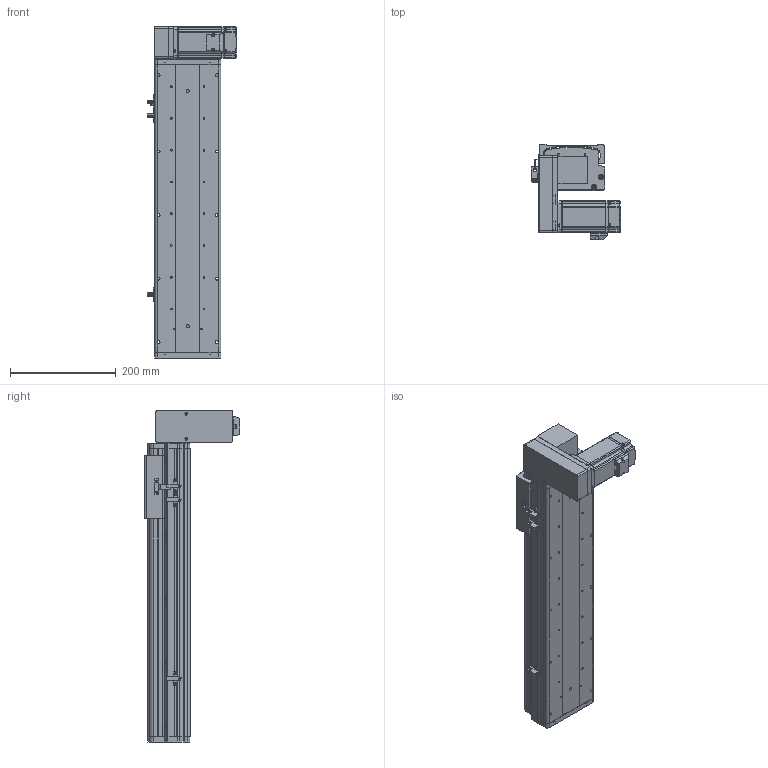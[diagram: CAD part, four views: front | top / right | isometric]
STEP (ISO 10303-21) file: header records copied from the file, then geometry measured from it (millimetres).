
FILE_DESCRIPTION (( 'STEP AP214' ), '1' );
FILE_NAME ('KSD125B-S350-MRD-CM.STEP', '2017-10-21T06:00:52', ( '微软用户' ), ( '微软中国' ), 'SwSTEP 2.0', 'SolidWorks 2014', '' );
FILE_SCHEMA (( 'AUTOMOTIVE_DESIGN' ));
Length unit declared in the file: millimetre
Products named in the file (17): KSD125模组同步带-滑动座1; KSD125B-S350-MRD-CM; 悵誘欶奻狟殏; HTPA30S3M150_A_H6_a佪裝蚚; HTPA30S3M150_A_H6_a萇儂蚚; 100宽马达安装板连板上下折丝杆同步带; KSD125模组350行程同步带-防尘盖; 125模组350行程同步带-底板; MHMD042G1CA_2_03; KSD125模组同步带-防撞垫2; 覜茼え68遵圉猾敕; U倰嫖萇假蚾璃; U倰嫖萇EEㄜSX672; KSD125模组同步带-防撞垫1; 100宽马达安装板同步带右; 前端板-125宽模组同步带; 125模组同步带-尾端板1
Assembly tree (20 placements, depth 2):
  KSD125B-S350-MRD-CM
    KSD125模组同步带-滑动座1
    125模组同步带-尾端板1
    前端板-125宽模组同步带
    100宽马达安装板同步带右
    KSD125模组同步带-防撞垫1
    U倰嫖萇EEㄜSX672  x3
    U倰嫖萇假蚾璃  x3
    覜茼え68遵圉猾敕
    KSD125模组同步带-防撞垫2
    MHMD042G1CA_2_03
    125模组350行程同步带-底板
    KSD125模组350行程同步带-防尘盖
    100宽马达安装板连板上下折丝杆同步带
    HTPA30S3M150_A_H6_a萇儂蚚
    HTPA30S3M150_A_H6_a佪裝蚚
    悵誘欶奻狟殏
Bounding box: 168.7 x 179.5 x 627 mm (x, y, z)
Volume: 2191094.7 mm3; surface area: 773636.4 mm2
Topology: 19 solids, 22 shells, 2217 faces, 6415 edges, 4238 vertices
Faces by surface type: cylinder 1372, plane 718, cone 105, bspline 22
Entity records: 78401 total; most frequent: CARTESIAN_POINT 15525, DIRECTION 12200, ORIENTED_EDGE 11350, EDGE_CURVE 5753, AXIS2_PLACEMENT_3D 4701, VERTEX_POINT 3830, LINE 2798, VECTOR 2798
